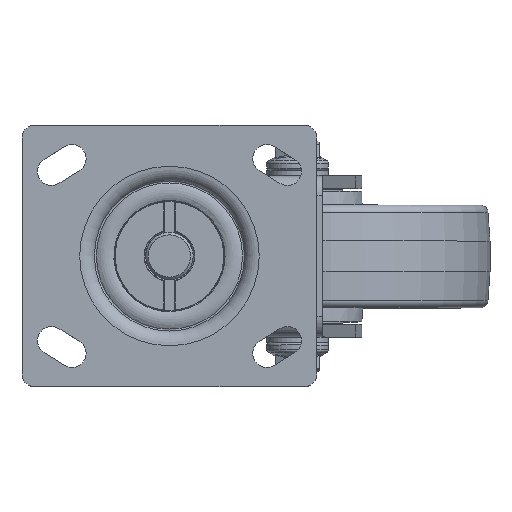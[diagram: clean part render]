
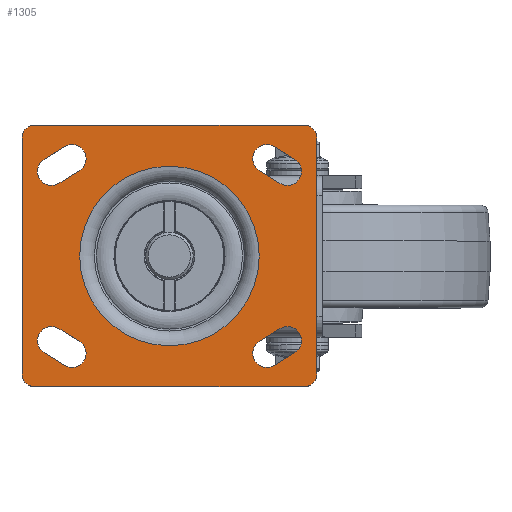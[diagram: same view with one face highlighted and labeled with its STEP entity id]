
A CAD part, top view. The second image highlights one B-rep face of the part: STEP entity #1305.
In plain terms, the highlighted planar face has unit normal (0, 0, 1).
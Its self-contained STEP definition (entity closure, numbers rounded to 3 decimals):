
#188=CARTESIAN_POINT('',(35.0,0.0,2.07));
#189=VERTEX_POINT('',#188);
#190=CARTESIAN_POINT('',(0.,0.0,2.07));
#191=DIRECTION('',(0.0,0.0,-1.0));
#192=DIRECTION('',(1.0,0.0,0.0));
#193=AXIS2_PLACEMENT_3D('',#190,#191,#192);
#194=CIRCLE('',#193,35.);
#195=EDGE_CURVE('',#189,#189,#194,.T.);
#510=CARTESIAN_POINT('',(35.085,33.336,2.07));
#511=VERTEX_POINT('',#510);
#518=CARTESIAN_POINT('',(43.085,28.336,2.07));
#519=VERTEX_POINT('',#518);
#520=CARTESIAN_POINT('',(43.085,28.336,2.07));
#521=DIRECTION('',(-0.848,0.53,0.0));
#522=VECTOR('',#521,9.434);
#523=LINE('',#520,#522);
#524=EDGE_CURVE('',#519,#511,#523,.T.);
#550=CARTESIAN_POINT('',(48.915,37.664,2.07));
#551=VERTEX_POINT('',#550);
#552=CARTESIAN_POINT('',(46.0,33.,2.07));
#553=DIRECTION('',(0.0,0.0,-1.0));
#554=DIRECTION('',(1.0,0.0,0.0));
#555=AXIS2_PLACEMENT_3D('',#552,#553,#554);
#556=CIRCLE('',#555,5.5);
#557=EDGE_CURVE('',#551,#519,#556,.T.);
#582=CARTESIAN_POINT('',(40.915,42.664,2.07));
#583=VERTEX_POINT('',#582);
#584=CARTESIAN_POINT('',(40.915,42.664,2.07));
#585=DIRECTION('',(0.848,-0.53,0.0));
#586=VECTOR('',#585,9.434);
#587=LINE('',#584,#586);
#588=EDGE_CURVE('',#583,#551,#587,.T.);
#612=CARTESIAN_POINT('',(38.,38.,2.07));
#613=DIRECTION('',(0.0,0.0,-1.0));
#614=DIRECTION('',(1.0,0.0,0.0));
#615=AXIS2_PLACEMENT_3D('',#612,#613,#614);
#616=CIRCLE('',#615,5.5);
#617=EDGE_CURVE('',#511,#583,#616,.T.);
#639=CARTESIAN_POINT('',(57.5,-46.0,2.07));
#640=VERTEX_POINT('',#639);
#647=CARTESIAN_POINT('',(52.5,-51.0,2.07));
#648=VERTEX_POINT('',#647);
#649=CARTESIAN_POINT('',(52.5,-46.0,2.07));
#650=DIRECTION('',(0.0,0.0,1.0));
#651=DIRECTION('',(1.0,0.0,0.0));
#652=AXIS2_PLACEMENT_3D('',#649,#650,#651);
#653=CIRCLE('',#652,5.0);
#654=EDGE_CURVE('',#648,#640,#653,.T.);
#679=CARTESIAN_POINT('',(-52.5,-51.0,2.07));
#680=VERTEX_POINT('',#679);
#681=CARTESIAN_POINT('',(-52.5,-51.0,2.07));
#682=DIRECTION('',(1.0,0.0,0.0));
#683=VECTOR('',#682,105.0);
#684=LINE('',#681,#683);
#685=EDGE_CURVE('',#680,#648,#684,.T.);
#711=CARTESIAN_POINT('',(-57.5,-46.0,2.07));
#712=VERTEX_POINT('',#711);
#713=CARTESIAN_POINT('',(-52.5,-46.0,2.07));
#714=DIRECTION('',(0.0,0.0,1.0));
#715=DIRECTION('',(1.0,0.0,0.0));
#716=AXIS2_PLACEMENT_3D('',#713,#714,#715);
#717=CIRCLE('',#716,5.0);
#718=EDGE_CURVE('',#712,#680,#717,.T.);
#743=CARTESIAN_POINT('',(-57.5,46.,2.07));
#744=VERTEX_POINT('',#743);
#745=CARTESIAN_POINT('',(-57.5,46.,2.07));
#746=DIRECTION('',(0.0,-1.0,0.0));
#747=VECTOR('',#746,92.);
#748=LINE('',#745,#747);
#749=EDGE_CURVE('',#744,#712,#748,.T.);
#775=CARTESIAN_POINT('',(-52.5,51.,2.07));
#776=VERTEX_POINT('',#775);
#777=CARTESIAN_POINT('',(-52.5,46.,2.07));
#778=DIRECTION('',(0.0,0.0,1.0));
#779=DIRECTION('',(1.0,0.0,0.0));
#780=AXIS2_PLACEMENT_3D('',#777,#778,#779);
#781=CIRCLE('',#780,5.0);
#782=EDGE_CURVE('',#776,#744,#781,.T.);
#807=CARTESIAN_POINT('',(52.5,51.,2.07));
#808=VERTEX_POINT('',#807);
#809=CARTESIAN_POINT('',(52.5,51.,2.07));
#810=DIRECTION('',(-1.0,0.0,0.0));
#811=VECTOR('',#810,105.);
#812=LINE('',#809,#811);
#813=EDGE_CURVE('',#808,#776,#812,.T.);
#839=CARTESIAN_POINT('',(57.5,46.,2.07));
#840=VERTEX_POINT('',#839);
#841=CARTESIAN_POINT('',(52.5,46.,2.07));
#842=DIRECTION('',(0.0,0.0,1.0));
#843=DIRECTION('',(1.0,0.0,0.0));
#844=AXIS2_PLACEMENT_3D('',#841,#842,#843);
#845=CIRCLE('',#844,5.0);
#846=EDGE_CURVE('',#840,#808,#845,.T.);
#869=CARTESIAN_POINT('',(57.5,-46.0,2.07));
#870=DIRECTION('',(0.0,1.0,0.0));
#871=VECTOR('',#870,92.);
#872=LINE('',#869,#871);
#873=EDGE_CURVE('',#640,#840,#872,.T.);
#894=CARTESIAN_POINT('',(-35.085,-33.336,2.07));
#895=VERTEX_POINT('',#894);
#902=CARTESIAN_POINT('',(-43.085,-28.336,2.07));
#903=VERTEX_POINT('',#902);
#904=CARTESIAN_POINT('',(-43.085,-28.336,2.07));
#905=DIRECTION('',(0.848,-0.53,0.0));
#906=VECTOR('',#905,9.434);
#907=LINE('',#904,#906);
#908=EDGE_CURVE('',#903,#895,#907,.T.);
#934=CARTESIAN_POINT('',(-48.915,-37.664,2.07));
#935=VERTEX_POINT('',#934);
#936=CARTESIAN_POINT('',(-46.,-33.,2.07));
#937=DIRECTION('',(0.0,0.0,-1.0));
#938=DIRECTION('',(1.0,0.0,0.0));
#939=AXIS2_PLACEMENT_3D('',#936,#937,#938);
#940=CIRCLE('',#939,5.5);
#941=EDGE_CURVE('',#935,#903,#940,.T.);
#966=CARTESIAN_POINT('',(-40.915,-42.664,2.07));
#967=VERTEX_POINT('',#966);
#968=CARTESIAN_POINT('',(-40.915,-42.664,2.07));
#969=DIRECTION('',(-0.848,0.53,0.0));
#970=VECTOR('',#969,9.434);
#971=LINE('',#968,#970);
#972=EDGE_CURVE('',#967,#935,#971,.T.);
#996=CARTESIAN_POINT('',(-38.0,-38.,2.07));
#997=DIRECTION('',(0.0,0.0,-1.0));
#998=DIRECTION('',(1.0,0.0,0.0));
#999=AXIS2_PLACEMENT_3D('',#996,#997,#998);
#1000=CIRCLE('',#999,5.5);
#1001=EDGE_CURVE('',#895,#967,#1000,.T.);
#1022=CARTESIAN_POINT('',(-40.915,42.664,2.07));
#1023=VERTEX_POINT('',#1022);
#1030=CARTESIAN_POINT('',(-48.915,37.664,2.07));
#1031=VERTEX_POINT('',#1030);
#1032=CARTESIAN_POINT('',(-48.915,37.664,2.07));
#1033=DIRECTION('',(0.848,0.53,0.0));
#1034=VECTOR('',#1033,9.434);
#1035=LINE('',#1032,#1034);
#1036=EDGE_CURVE('',#1031,#1023,#1035,.T.);
#1062=CARTESIAN_POINT('',(-43.085,28.336,2.07));
#1063=VERTEX_POINT('',#1062);
#1064=CARTESIAN_POINT('',(-46.,33.,2.07));
#1065=DIRECTION('',(0.0,0.0,-1.0));
#1066=DIRECTION('',(1.0,0.0,0.0));
#1067=AXIS2_PLACEMENT_3D('',#1064,#1065,#1066);
#1068=CIRCLE('',#1067,5.5);
#1069=EDGE_CURVE('',#1063,#1031,#1068,.T.);
#1094=CARTESIAN_POINT('',(-35.085,33.336,2.07));
#1095=VERTEX_POINT('',#1094);
#1096=CARTESIAN_POINT('',(-35.085,33.336,2.07));
#1097=DIRECTION('',(-0.848,-0.53,0.0));
#1098=VECTOR('',#1097,9.434);
#1099=LINE('',#1096,#1098);
#1100=EDGE_CURVE('',#1095,#1063,#1099,.T.);
#1124=CARTESIAN_POINT('',(-38.0,38.,2.07));
#1125=DIRECTION('',(0.0,0.0,-1.0));
#1126=DIRECTION('',(1.0,0.0,0.0));
#1127=AXIS2_PLACEMENT_3D('',#1124,#1125,#1126);
#1128=CIRCLE('',#1127,5.5);
#1129=EDGE_CURVE('',#1023,#1095,#1128,.T.);
#1150=CARTESIAN_POINT('',(40.915,-42.664,2.07));
#1151=VERTEX_POINT('',#1150);
#1158=CARTESIAN_POINT('',(48.915,-37.664,2.07));
#1159=VERTEX_POINT('',#1158);
#1160=CARTESIAN_POINT('',(48.915,-37.664,2.07));
#1161=DIRECTION('',(-0.848,-0.53,0.0));
#1162=VECTOR('',#1161,9.434);
#1163=LINE('',#1160,#1162);
#1164=EDGE_CURVE('',#1159,#1151,#1163,.T.);
#1190=CARTESIAN_POINT('',(43.085,-28.336,2.07));
#1191=VERTEX_POINT('',#1190);
#1192=CARTESIAN_POINT('',(46.0,-33.,2.07));
#1193=DIRECTION('',(0.0,0.0,-1.0));
#1194=DIRECTION('',(1.0,0.0,0.0));
#1195=AXIS2_PLACEMENT_3D('',#1192,#1193,#1194);
#1196=CIRCLE('',#1195,5.5);
#1197=EDGE_CURVE('',#1191,#1159,#1196,.T.);
#1222=CARTESIAN_POINT('',(35.085,-33.336,2.07));
#1223=VERTEX_POINT('',#1222);
#1224=CARTESIAN_POINT('',(35.085,-33.336,2.07));
#1225=DIRECTION('',(0.848,0.53,0.0));
#1226=VECTOR('',#1225,9.434);
#1227=LINE('',#1224,#1226);
#1228=EDGE_CURVE('',#1223,#1191,#1227,.T.);
#1252=CARTESIAN_POINT('',(38.,-38.,2.07));
#1253=DIRECTION('',(0.0,0.0,-1.0));
#1254=DIRECTION('',(1.0,0.0,0.0));
#1255=AXIS2_PLACEMENT_3D('',#1252,#1253,#1254);
#1256=CIRCLE('',#1255,5.5);
#1257=EDGE_CURVE('',#1151,#1223,#1256,.T.);
#1263=CARTESIAN_POINT('',(67.5,0.0,2.07));
#1264=DIRECTION('',(0.0,0.0,1.0));
#1265=DIRECTION('',(1.0,0.0,0.0));
#1266=AXIS2_PLACEMENT_3D('',#1263,#1264,#1265);
#1267=PLANE('',#1266);
#1268=ORIENTED_EDGE('',*,*,#782,.T.);
#1269=ORIENTED_EDGE('',*,*,#749,.T.);
#1270=ORIENTED_EDGE('',*,*,#718,.T.);
#1271=ORIENTED_EDGE('',*,*,#685,.T.);
#1272=ORIENTED_EDGE('',*,*,#654,.T.);
#1273=ORIENTED_EDGE('',*,*,#873,.T.);
#1274=ORIENTED_EDGE('',*,*,#846,.T.);
#1275=ORIENTED_EDGE('',*,*,#813,.T.);
#1276=EDGE_LOOP('',(#1268,#1269,#1270,#1271,#1272,#1273,#1274,#1275));
#1277=FACE_OUTER_BOUND('',#1276,.T.);
#1278=ORIENTED_EDGE('',*,*,#588,.T.);
#1279=ORIENTED_EDGE('',*,*,#557,.T.);
#1280=ORIENTED_EDGE('',*,*,#524,.T.);
#1281=ORIENTED_EDGE('',*,*,#617,.T.);
#1282=EDGE_LOOP('',(#1278,#1279,#1280,#1281));
#1283=FACE_BOUND('',#1282,.T.);
#1284=ORIENTED_EDGE('',*,*,#972,.T.);
#1285=ORIENTED_EDGE('',*,*,#941,.T.);
#1286=ORIENTED_EDGE('',*,*,#908,.T.);
#1287=ORIENTED_EDGE('',*,*,#1001,.T.);
#1288=EDGE_LOOP('',(#1284,#1285,#1286,#1287));
#1289=FACE_BOUND('',#1288,.T.);
#1290=ORIENTED_EDGE('',*,*,#1100,.T.);
#1291=ORIENTED_EDGE('',*,*,#1069,.T.);
#1292=ORIENTED_EDGE('',*,*,#1036,.T.);
#1293=ORIENTED_EDGE('',*,*,#1129,.T.);
#1294=EDGE_LOOP('',(#1290,#1291,#1292,#1293));
#1295=FACE_BOUND('',#1294,.T.);
#1296=ORIENTED_EDGE('',*,*,#1228,.T.);
#1297=ORIENTED_EDGE('',*,*,#1197,.T.);
#1298=ORIENTED_EDGE('',*,*,#1164,.T.);
#1299=ORIENTED_EDGE('',*,*,#1257,.T.);
#1300=EDGE_LOOP('',(#1296,#1297,#1298,#1299));
#1301=FACE_BOUND('',#1300,.T.);
#1302=ORIENTED_EDGE('',*,*,#195,.T.);
#1303=EDGE_LOOP('',(#1302));
#1304=FACE_BOUND('',#1303,.T.);
#1305=ADVANCED_FACE('',(#1277,#1283,#1289,#1295,#1301,#1304),#1267,.T.);
